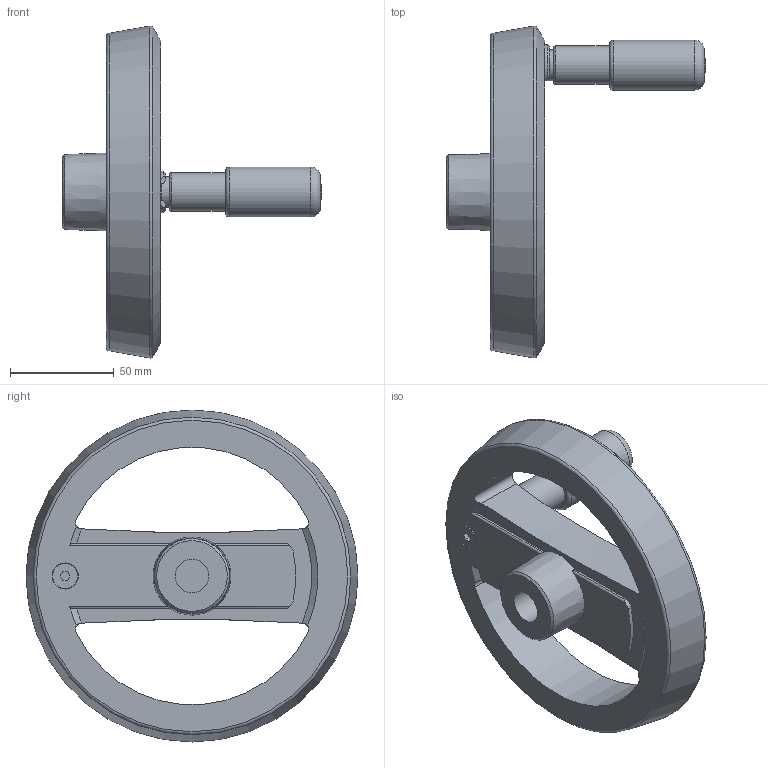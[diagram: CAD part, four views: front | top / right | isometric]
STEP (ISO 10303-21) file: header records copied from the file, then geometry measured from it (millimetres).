
FILE_DESCRIPTION( ( 'STEP AP203' ), '1' );
FILE_NAME( 'C:/Temp/Ganter_Step_05_03_2020/data/1_3/gn_924_7/gn_924_7_b/Handwheel with retractable handle GN 924.7-160-B16-R-SW (activated).stp', '2020-03-05T10:41:40', ( 'License CC BY-ND 4.0' ), ( 'CADENAS' ), ' ', 'PARTsolutions', ' ' );
FILE_SCHEMA( ( 'CONFIG_CONTROL_DESIGN' ) );
Length unit declared in the file: millimetre
Products named in the file (3): Handwheel with retractable handle GN 924.7-160-B16-R-SW (activated); _Umleggriff-Handrad GN 924.7-160-B16-R-SW-1; _Umleggriff-Handrad GN 924.7-160-B16-R-SW (90)-2
Assembly tree (2 placements, depth 2):
  Handwheel with retractable handle GN 924.7-160-B16-R-SW (activated)
    _Umleggriff-Handrad GN 924.7-160-B16-R-SW-1
    _Umleggriff-Handrad GN 924.7-160-B16-R-SW (90)-2
Bounding box: 124.7 x 159.68 x 159.68 mm (x, y, z)
Volume: 294452 mm3; surface area: 66127.3 mm2
Topology: 2 solids, 2 shells, 108 faces, 278 edges, 179 vertices
Faces by surface type: plane 44, cylinder 42, cone 12, torus 8, sphere 2
Full cylindrical faces by diameter (mm): 4 x4, 5 x1, 8 x1, 12 x1, 15 x1, 16 x1, 18.5 x1, 20 x1, 24 x2, 25.6 x1
Entity records: 3572 total; most frequent: CARTESIAN_POINT 996, DIRECTION 516, ORIENTED_EDGE 478, EDGE_CURVE 239, AXIS2_PLACEMENT_3D 217, VERTEX_POINT 173, EDGE_LOOP 151, FACE_OUTER_BOUND 129
